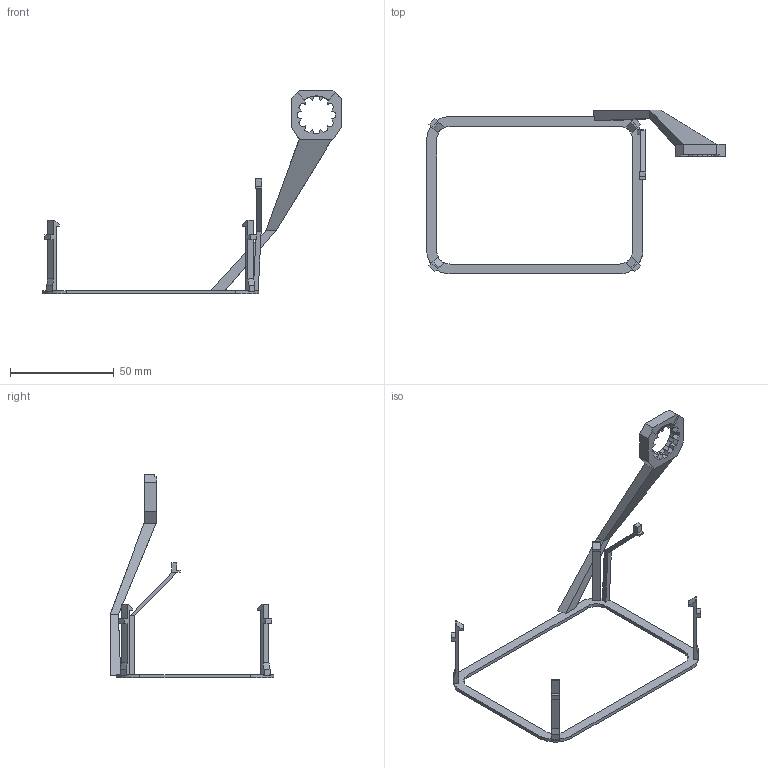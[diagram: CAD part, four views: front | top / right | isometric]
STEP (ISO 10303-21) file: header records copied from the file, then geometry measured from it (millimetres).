
FILE_DESCRIPTION(('Open CASCADE Model'),'2;1');
FILE_NAME('Open CASCADE Shape Model','2026-10-14T01:56:36',('Author'),( 'Open CASCADE'),'Open CASCADE STEP processor 8.0','build123d', 'Unknown');
FILE_SCHEMA(('AUTOMOTIVE_DESIGN { 1 0 10303 214 1 1 1 1 }'));
Length unit declared in the file: millimetre
Products named in the file (1): COMPOUND
Bounding box: 143.85 x 78.95 x 98.2 mm (x, y, z)
Volume: 8549.4 mm3; surface area: 10020.8 mm2
Topology: 1 solids, 1 shells, 249 faces, 732 edges, 486 vertices
Faces by surface type: plane 203, cylinder 32, bspline 14
Entity records: 17357 total; most frequent: CARTESIAN_POINT 3951, DIRECTION 2094, ORIENTED_EDGE 1464, PCURVE 1464, DEFINITIONAL_REPRESENTATION 1464, LINE 1430, VECTOR 1430, EDGE_CURVE 732
